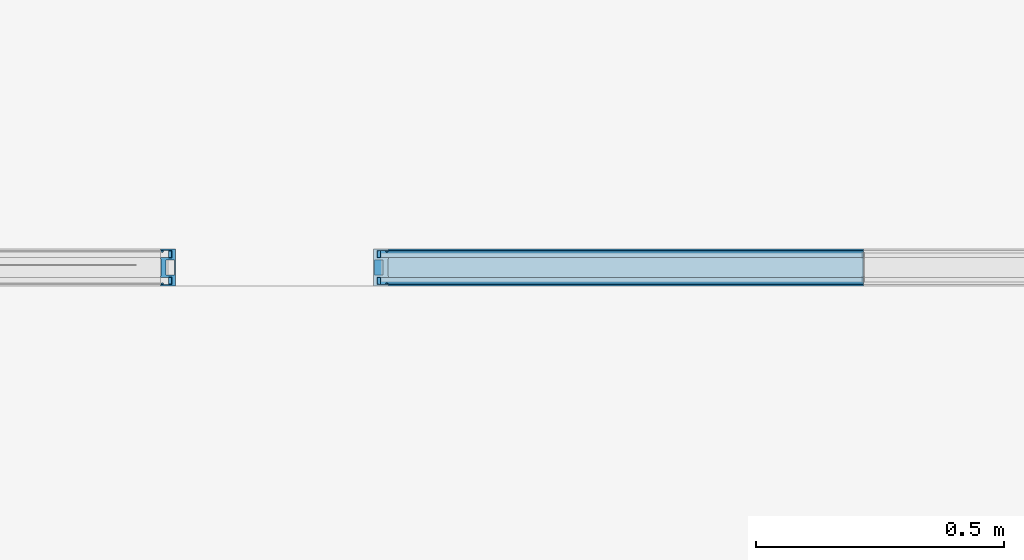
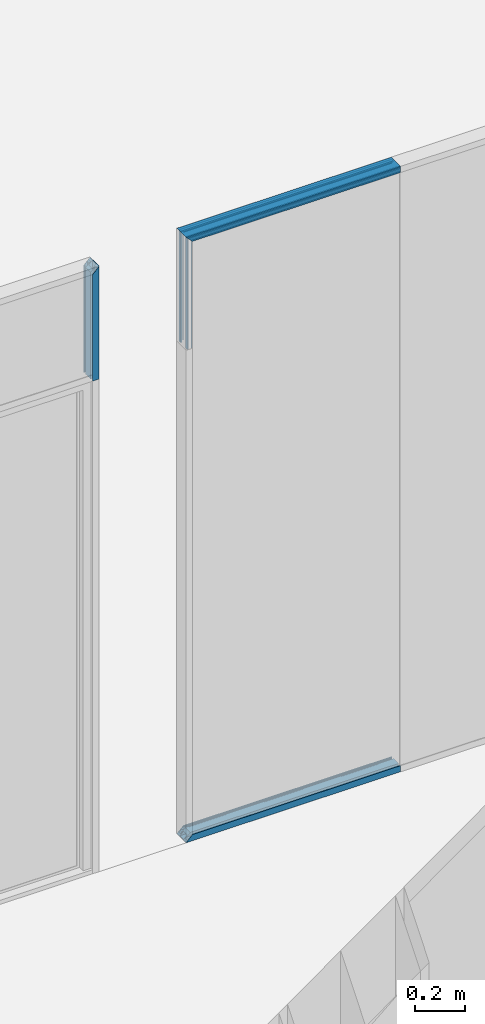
# One storey, part 27 of 62: 7 building element parts, 6 elements without a shape of their own.
"""IFC2X3 building model written with IfcOpenShell, lengths in millimetres."""

from ifc_helpers import new_model, entity, si_unit, converted_unit, derived_unit, money_unit, direction, frame, origin_with_axes, place, context, subcontext, project, spatial, faceted_brep, source, transform, mapped, material, type_object, element, aggregate, save


model = new_model("IFC2X3")

# Units and contexts
model_context = context("Model", 3, precision=0.01, world=origin_with_axes(), true_north=direction((0.0, 1.0)))
body_context = subcontext(model_context, "Body", "Model", "MODEL_VIEW")
ifc_project = project(units=[si_unit("LENGTHUNIT", "METRE", prefix="MILLI"), si_unit("AREAUNIT", "SQUARE_METRE"), si_unit("VOLUMEUNIT", "CUBIC_METRE"), converted_unit("PLANEANGLEUNIT", "DEGREE", entity("IfcPlaneAngleMeasure", 0.0174532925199), si_unit("PLANEANGLEUNIT", "RADIAN"), dimensions=[0, 0, 0, 0, 0, 0, 0]), si_unit("SOLIDANGLEUNIT", "STERADIAN"), money_unit("EUR"), converted_unit("TIMEUNIT", "Year", entity("IfcTimeMeasure", 31556926.0), si_unit("TIMEUNIT", "SECOND"), dimensions=[0, 0, 1, 0, 0, 0, 0]), si_unit("MASSUNIT", "GRAM", prefix="KILO"), si_unit("THERMODYNAMICTEMPERATUREUNIT", "DEGREE_CELSIUS"), si_unit("LUMINOUSINTENSITYUNIT", "LUMEN"), si_unit("ENERGYUNIT", "JOULE", prefix="MEGA"), derived_unit("THERMALCONDUCTANCEUNIT", [(si_unit("POWERUNIT", "WATT"), 1), (si_unit("LENGTHUNIT", "METRE"), -1), (si_unit("THERMODYNAMICTEMPERATUREUNIT", "KELVIN"), -1)]), derived_unit("SPECIFICHEATCAPACITYUNIT", [(si_unit("ENERGYUNIT", "JOULE"), 1), (si_unit("MASSUNIT", "GRAM", prefix="KILO"), -1), (si_unit("THERMODYNAMICTEMPERATUREUNIT", "KELVIN"), -1)]), derived_unit("MASSDENSITYUNIT", [(si_unit("MASSUNIT", "GRAM", prefix="KILO"), 1), (si_unit("VOLUMEUNIT", "CUBIC_METRE"), -1)])], contexts=[model_context])

# Site, building, storey
site_placement = place(None, origin_with_axes())
site = spatial("IfcSite", under=ifc_project, at=site_placement, Name="Puškini 31, Narva", CompositionType="ELEMENT")
building_placement = place(site_placement, origin_with_axes())
building = spatial("IfcBuilding", under=site, at=building_placement, Name="Narva Riigigümnaasium", CompositionType="ELEMENT")
storey_placement = place(building_placement, frame((0.0, 0.0, 660.0), z_axis=(0.0, 0.0, 1.0), x_axis=(1.0, 0.0, 0.0)))
storey = spatial("IfcBuildingStorey", under=building, at=storey_placement, Name="2.korrus +0.66", CompositionType="ELEMENT", Elevation=660.0)

# Curtain wall, member, building element parts
curtain_wall_type = type_object("IfcCurtainWallType", Name="Curtain Wall Type", PredefinedType="NOTDEFINED")
curtain_wall_1_placement = place(storey_placement, frame((41241.6, 223837.000007, -1.99739158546e-06), z_axis=(0.0, 0.0, 1.0), x_axis=(1.0, 0.0, 0.0)))
curtain_wall_1 = element("IfcCurtainWall", 1, at=curtain_wall_1_placement, inside=storey, type_object=curtain_wall_type, Name="G-SKLF-53")
member_type_1 = type_object("IfcMemberType", Name="Boundary Frame 30 x 37", PredefinedType="MULLION")
member_1_placement = place(curtain_wall_1_placement, frame((910.4, 0.0, 2400.0), z_axis=(0.0, 0.0, 1.0), x_axis=(-1.0, 0.0, 0.0)))
member_1 = element("IfcMember", 2, at=member_1_placement, type_object=member_type_1, Name="G-SKLF-87-raam", ObjectType="MULLION")
aggregate(curtain_wall_1, [member_1])
ifc_material_1 = material(Name="Klaasvill")
shared_shape_1 = source(origin_with_axes(), body_context, "Body", "Brep", [
    faceted_brep([(-7.49999990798, 20.000000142, 0.0), (-7.49999990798, 20.000000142, 542.499955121), (-13.8499999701, 20.000000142, 536.149955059), (-13.8499999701, 20.000000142, 0.0), (-7.49999990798, 34.0161444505, 0.0), (-7.49999990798, 34.0161444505, 542.499955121), (-13.8499999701, 34.0161444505, 536.149955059), (-13.8499999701, 34.0161444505, 0.0)], [[[0, 1, 2, 3]], [[4, 5, 1, 0]], [[1, 5, 6, 2]], [[3, 2, 6, 7]], [[0, 3, 7, 4]], [[7, 6, 5, 4]]]),
    faceted_brep([(-24.987414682, 34.0161444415, 0.0), (-24.987414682, 34.0161444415, 525.012540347), (-25.004489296, 32.0307503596, 524.995465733), (-25.004489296, 32.0307503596, 0.0), (-28.5126239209, 34.0161444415, 0.0), (-28.5126239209, 34.0161444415, 521.487331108), (-28.7655837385, 33.0385325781, 521.234371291), (-28.4955493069, 32.0307503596, 521.504405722), (-27.75780152, 31.2930025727, 522.242153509), (-26.7500193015, 31.0229681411, 523.249935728), (-25.742237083, 31.2930025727, 524.257717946), (-25.742237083, 31.2930025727, 0.0), (-26.7500193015, 31.0229681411, 0.0), (-27.75780152, 31.2930025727, 0.0), (-28.4955493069, 32.0307503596, 0.0), (-28.7655837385, 33.0385325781, 0.0)], [[[0, 1, 2, 3]], [[4, 5, 1, 0]], [[1, 5, 6, 7, 8, 9, 10, 2]], [[3, 2, 10, 11]], [[0, 3, 11, 12, 13, 14, 15, 4]], [[15, 6, 5, 4]], [[14, 7, 6, 15]], [[13, 8, 7, 14]], [[12, 9, 8, 13]], [[11, 10, 9, 12]]]),
    faceted_brep([(-7.49999990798, -19.9999997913, 0.0), (-7.49999990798, -19.9999997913, 542.499955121), (-7.49999990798, -34.0161445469, 542.499955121), (-7.49999990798, -34.0161445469, 0.0), (-13.8499999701, -19.9999997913, 0.0), (-13.8499999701, -19.9999997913, 536.149955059), (-13.8499999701, -34.0161445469, 536.149955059), (-13.8499999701, -34.0161445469, 0.0)], [[[0, 1, 2, 3]], [[4, 5, 1, 0]], [[1, 5, 6, 2]], [[3, 2, 6, 7]], [[0, 3, 7, 4]], [[7, 6, 5, 4]]]),
    faceted_brep([(-25.004489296, -32.0307503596, 0.0), (-25.004489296, -32.0307503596, 524.995465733), (-24.987414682, -34.0161444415, 525.012540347), (-24.987414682, -34.0161444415, 0.0), (-25.742237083, -31.2930025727, 0.0), (-25.742237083, -31.2930025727, 524.257717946), (-26.7500193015, -31.0229681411, 523.249935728), (-27.75780152, -31.2930025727, 522.242153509), (-28.4955493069, -32.0307503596, 521.504405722), (-28.7655837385, -33.0385325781, 521.234371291), (-28.5126239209, -34.0161444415, 521.487331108), (-28.5126239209, -34.0161444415, 0.0), (-28.7655837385, -33.0385325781, 0.0), (-28.4955493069, -32.0307503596, 0.0), (-27.75780152, -31.2930025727, 0.0), (-26.7500193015, -31.0229681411, 0.0)], [[[0, 1, 2, 3]], [[4, 5, 1, 0]], [[1, 5, 6, 7, 8, 9, 10, 2]], [[3, 2, 10, 11]], [[0, 3, 11, 12, 13, 14, 15, 4]], [[15, 6, 5, 4]], [[14, 7, 6, 15]], [[13, 8, 7, 14]], [[12, 9, 8, 13]], [[11, 10, 9, 12]]]),
])
building_element_part_1_placement = place(member_1_placement, origin_with_axes())
building_element_part_1 = element("IfcBuildingElementPart", 3, at=building_element_part_1_placement, material=ifc_material_1, Name="Klaasvill", context=body_context, shape_type="MappedRepresentation", body=[
    mapped(shared_shape_1, transform((0.0, 0.0, 0.0), x_axis=(-1.0, 0.0, 0.0), y_axis=(0.0, -1.0, 0.0), z_axis=(0.0, 0.0, 1.0))),
])
ifc_material_2 = material(Name="Teras RAL7012")
shared_shape_2 = source(origin_with_axes(), body_context, "Body", "Brep", [
    faceted_brep([(0.0, -17.0000000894, 0.0), (0.0, -17.0000000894, 549.999955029), (-29.5999996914, -17.0000000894, 520.399955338), (-29.5999996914, -17.0000000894, 0.0), (0.0, 17.0000000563, 0.0), (0.0, 17.0000000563, 549.999955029), (-29.5999996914, 17.0000000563, 520.399955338), (-1.9999999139, 15.0000001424, 547.999955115), (-1.9999999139, -15.0000001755, 547.999955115), (-18.7999996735, -15.0000001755, 531.199955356), (-18.7999996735, 15.0000001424, 531.199955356), (-29.5999996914, 17.0000000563, 0.0), (-1.9999999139, 15.0000001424, 0.0), (-18.7999996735, 15.0000001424, 0.0), (-18.7999996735, -15.0000001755, 0.0), (-1.9999999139, -15.0000001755, 0.0)], [[[0, 1, 2, 3]], [[4, 5, 1, 0]], [[1, 5, 6, 2], [7, 8, 9, 10]], [[3, 2, 6, 11]], [[0, 3, 11, 4], [12, 13, 14, 15]], [[11, 6, 5, 4]], [[15, 8, 7, 12]], [[14, 9, 8, 15]], [[13, 10, 9, 14]], [[12, 7, 10, 13]]]),
    faceted_brep([(0.0, 17.0, 0.0), (0.0, 17.0, 549.999955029), (-29.5999996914, 17.0000000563, 520.399955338), (-29.5999996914, 17.0000000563, 0.0), (0.0, 37.0, 0.0), (0.0, 37.0, 549.999955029), (-30.0000193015, 37.0, 519.999935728), (-30.0000193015, 34.0161444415, 519.999935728), (-28.5126239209, 34.0161444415, 521.487331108), (-24.987414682, 34.0161444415, 525.012540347), (-13.8499999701, 34.0161444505, 536.149955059), (-7.49999999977, 34.0161444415, 542.49995503), (-7.49999999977, 20.0, 542.49995503), (-13.8499999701, 20.000000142, 536.149955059), (-30.0000193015, 20.0, 519.999935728), (-30.0000193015, 17.0, 519.999935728), (-30.0000193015, 17.0, 0.0), (-30.0000193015, 20.0, 0.0), (-13.8499999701, 20.000000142, 0.0), (-7.49999999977, 20.0, 0.0), (-7.49999999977, 34.0161444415, 0.0), (-13.8499999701, 34.0161444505, 0.0), (-24.987414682, 34.0161444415, 0.0), (-28.5126239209, 34.0161444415, 0.0), (-30.0000193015, 34.0161444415, 0.0), (-30.0000193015, 37.0, 0.0)], [[[0, 1, 2, 3]], [[4, 5, 1, 0]], [[1, 5, 6, 7, 8, 9, 10, 11, 12, 13, 14, 15, 2]], [[3, 2, 15, 16]], [[0, 3, 16, 17, 18, 19, 20, 21, 22, 23, 24, 25, 4]], [[25, 6, 5, 4]], [[24, 7, 6, 25]], [[23, 8, 7, 24]], [[22, 9, 8, 23]], [[21, 10, 9, 22]], [[20, 11, 10, 21]], [[19, 12, 11, 20]], [[18, 13, 12, 19]], [[17, 14, 13, 18]], [[16, 15, 14, 17]]]),
    faceted_brep([(0.0, -17.0, 0.0), (0.0, -17.0, 549.999955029), (0.0, -37.0, 549.999955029), (0.0, -37.0, 0.0), (-29.5999996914, -17.0000000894, 0.0), (-29.5999996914, -17.0000000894, 520.399955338), (-30.0000193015, -17.0, 519.999935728), (-30.0000193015, -20.0, 519.999935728), (-13.8499999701, -19.9999997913, 536.149955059), (-7.49999999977, -20.0, 542.49995503), (-7.49999999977, -34.0161444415, 542.49995503), (-13.8499999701, -34.0161445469, 536.149955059), (-24.987414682, -34.0161444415, 525.012540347), (-28.5126239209, -34.0161444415, 521.487331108), (-30.0000193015, -34.0161444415, 519.999935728), (-30.0000193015, -37.0, 519.999935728), (-30.0000193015, -37.0, 0.0), (-30.0000193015, -34.0161444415, 0.0), (-28.5126239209, -34.0161444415, 0.0), (-24.987414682, -34.0161444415, 0.0), (-13.8499999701, -34.0161445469, 0.0), (-7.49999999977, -34.0161444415, 0.0), (-7.49999999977, -20.0, 0.0), (-13.8499999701, -19.9999997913, 0.0), (-30.0000193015, -20.0, 0.0), (-30.0000193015, -17.0, 0.0)], [[[0, 1, 2, 3]], [[4, 5, 1, 0]], [[1, 5, 6, 7, 8, 9, 10, 11, 12, 13, 14, 15, 2]], [[3, 2, 15, 16]], [[0, 3, 16, 17, 18, 19, 20, 21, 22, 23, 24, 25, 4]], [[25, 6, 5, 4]], [[24, 7, 6, 25]], [[23, 8, 7, 24]], [[22, 9, 8, 23]], [[21, 10, 9, 22]], [[20, 11, 10, 21]], [[19, 12, 11, 20]], [[18, 13, 12, 19]], [[17, 14, 13, 18]], [[16, 15, 14, 17]]]),
])
building_element_part_2_placement = place(member_1_placement, origin_with_axes())
building_element_part_2 = element("IfcBuildingElementPart", 4, at=building_element_part_2_placement, material=ifc_material_2, Name="Teras RAL7012", context=body_context, shape_type="MappedRepresentation", body=[
    mapped(shared_shape_2, transform((0.0, 0.0, 0.0), x_axis=(-1.0, 0.0, 0.0), y_axis=(0.0, -1.0, 0.0), z_axis=(0.0, 0.0, 1.0))),
])
aggregate(member_1, [building_element_part_1, building_element_part_2])

# Curtain wall, members, building element parts
curtain_wall_2_placement = place(storey_placement, frame((45089.2571373, 223837.000216, -1.99739158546e-06), z_axis=(0.0, 0.0, 1.0), x_axis=(1.0, 0.0, 0.0)))
curtain_wall_2 = element("IfcCurtainWall", 5, at=curtain_wall_2_placement, inside=storey, type_object=curtain_wall_type, Name="G-SKLF-52")
member_type_2 = type_object("IfcMemberType", Name="30 x 37", PredefinedType="MULLION")
member_2_placement = place(curtain_wall_2_placement, frame((-2537.25717987, 0.0, 2400.0), z_axis=(0.0, 0.0, 1.0), x_axis=(1.0, 0.0, 0.0)))
member_2 = element("IfcMember", 6, at=member_2_placement, type_object=member_type_2, Name="G-SKLF-57-raam", ObjectType="MULLION")
shared_shape_3 = source(origin_with_axes(), body_context, "Body", "Brep", [
    faceted_brep([(7.49999990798, 20.000000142, 0.0), (13.8499999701, 20.000000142, 0.0), (13.8499999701, 20.000000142, 536.15000003), (7.49999990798, 20.000000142, 542.500000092), (7.49999990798, 34.0161444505, 0.0), (13.8499999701, 34.0161444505, 0.0), (13.8499999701, 34.0161444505, 536.15000003), (7.49999990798, 34.0161444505, 542.500000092)], [[[0, 1, 2, 3]], [[0, 4, 5, 1]], [[1, 5, 6, 2]], [[3, 2, 6, 7]], [[4, 0, 3, 7]], [[5, 4, 7, 6]]]),
    faceted_brep([(24.987414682, 34.0161444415, 0.0), (25.004489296, 32.0307503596, 0.0), (25.004489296, 32.0307503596, 524.995510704), (24.987414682, 34.0161444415, 525.012585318), (28.5126239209, 34.0161444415, 0.0), (28.7655837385, 33.0385325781, 0.0), (28.4955493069, 32.0307503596, 0.0), (27.75780152, 31.2930025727, 0.0), (26.7500193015, 31.0229681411, 0.0), (25.742237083, 31.2930025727, 0.0), (25.742237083, 31.2930025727, 524.257762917), (26.7500193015, 31.0229681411, 523.249980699), (27.75780152, 31.2930025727, 522.24219848), (28.4955493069, 32.0307503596, 521.504450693), (28.7655837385, 33.0385325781, 521.234416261), (28.5126239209, 34.0161444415, 521.487376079)], [[[0, 1, 2, 3]], [[0, 4, 5, 6, 7, 8, 9, 1]], [[1, 9, 10, 2]], [[3, 2, 10, 11, 12, 13, 14, 15]], [[4, 0, 3, 15]], [[5, 4, 15, 14]], [[6, 5, 14, 13]], [[7, 6, 13, 12]], [[8, 7, 12, 11]], [[9, 8, 11, 10]]]),
    faceted_brep([(7.49999990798, -19.9999997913, 0.0), (7.49999990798, -34.0161445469, 0.0), (7.49999990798, -34.0161445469, 542.500000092), (7.49999990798, -19.9999997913, 542.500000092), (13.8499999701, -19.9999997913, 0.0), (13.8499999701, -34.0161445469, 0.0), (13.8499999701, -34.0161445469, 536.15000003), (13.8499999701, -19.9999997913, 536.15000003)], [[[0, 1, 2, 3]], [[0, 4, 5, 1]], [[1, 5, 6, 2]], [[3, 2, 6, 7]], [[4, 0, 3, 7]], [[5, 4, 7, 6]]]),
    faceted_brep([(25.004489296, -32.0307503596, 0.0), (24.987414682, -34.0161444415, 0.0), (24.987414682, -34.0161444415, 525.012585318), (25.004489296, -32.0307503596, 524.995510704), (25.742237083, -31.2930025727, 0.0), (26.7500193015, -31.0229681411, 0.0), (27.75780152, -31.2930025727, 0.0), (28.4955493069, -32.0307503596, 0.0), (28.7655837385, -33.0385325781, 0.0), (28.5126239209, -34.0161444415, 0.0), (28.5126239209, -34.0161444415, 521.487376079), (28.7655837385, -33.0385325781, 521.234416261), (28.4955493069, -32.0307503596, 521.504450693), (27.75780152, -31.2930025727, 522.24219848), (26.7500193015, -31.0229681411, 523.249980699), (25.742237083, -31.2930025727, 524.257762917)], [[[0, 1, 2, 3]], [[0, 4, 5, 6, 7, 8, 9, 1]], [[1, 9, 10, 2]], [[3, 2, 10, 11, 12, 13, 14, 15]], [[4, 0, 3, 15]], [[5, 4, 15, 14]], [[6, 5, 14, 13]], [[7, 6, 13, 12]], [[8, 7, 12, 11]], [[9, 8, 11, 10]]]),
])
building_element_part_3_placement = place(member_2_placement, origin_with_axes())
building_element_part_3 = element("IfcBuildingElementPart", 7, at=building_element_part_3_placement, material=ifc_material_1, Name="Klaasvill", context=body_context, shape_type="MappedRepresentation", body=[
    mapped(shared_shape_3, transform((0.0, 0.0, 0.0))),
])
aggregate(member_2, [building_element_part_3])
member_3_placement = place(curtain_wall_2_placement, frame((-1547.65714373, 0.0, 0.0), z_axis=(-1.0, 0.0, 0.0), x_axis=(0.0, 0.0, 1.0)))
member_3 = element("IfcMember", 8, at=member_3_placement, type_object=member_type_2, Name="G-SKLF-55-raam", ObjectType="MULLION")
shared_shape_4 = source(origin_with_axes(), body_context, "Body", "Brep", [
    faceted_brep([(7.49999990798, 20.000000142, 0.0), (13.8499999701, 20.000000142, 0.0), (13.8499999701, 20.000000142, 975.750036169), (7.49999990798, 20.000000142, 982.100036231), (7.49999990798, 34.0161444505, 0.0), (13.8499999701, 34.0161444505, 0.0), (13.8499999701, 34.0161444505, 975.750036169), (7.49999990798, 34.0161444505, 982.100036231)], [[[0, 1, 2, 3]], [[0, 4, 5, 1]], [[1, 5, 6, 2]], [[3, 2, 6, 7]], [[4, 0, 3, 7]], [[5, 4, 7, 6]]]),
    faceted_brep([(24.987414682, 34.0161444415, 0.0), (25.004489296, 32.0307503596, 0.0), (25.004489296, 32.0307503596, 964.595546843), (24.987414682, 34.0161444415, 964.612621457), (28.5126239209, 34.0161444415, 0.0), (28.7655837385, 33.0385325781, 0.0), (28.4955493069, 32.0307503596, 0.0), (27.75780152, 31.2930025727, 0.0), (26.7500193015, 31.0229681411, 0.0), (25.742237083, 31.2930025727, 0.0), (25.742237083, 31.2930025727, 963.857799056), (26.7500193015, 31.0229681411, 962.850016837), (27.75780152, 31.2930025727, 961.842234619), (28.4955493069, 32.0307503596, 961.104486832), (28.7655837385, 33.0385325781, 960.8344524), (28.5126239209, 34.0161444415, 961.087412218)], [[[0, 1, 2, 3]], [[0, 4, 5, 6, 7, 8, 9, 1]], [[1, 9, 10, 2]], [[3, 2, 10, 11, 12, 13, 14, 15]], [[4, 0, 3, 15]], [[5, 4, 15, 14]], [[6, 5, 14, 13]], [[7, 6, 13, 12]], [[8, 7, 12, 11]], [[9, 8, 11, 10]]]),
    faceted_brep([(7.49999990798, -19.9999997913, 0.0), (7.49999990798, -34.0161445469, 0.0), (7.49999990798, -34.0161445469, 982.100036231), (7.49999990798, -19.9999997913, 982.100036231), (13.8499999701, -19.9999997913, 0.0), (13.8499999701, -34.0161445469, 0.0), (13.8499999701, -34.0161445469, 975.750036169), (13.8499999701, -19.9999997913, 975.750036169)], [[[0, 1, 2, 3]], [[0, 4, 5, 1]], [[1, 5, 6, 2]], [[3, 2, 6, 7]], [[4, 0, 3, 7]], [[5, 4, 7, 6]]]),
    faceted_brep([(25.004489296, -32.0307503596, 0.0), (24.987414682, -34.0161444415, 0.0), (24.987414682, -34.0161444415, 964.612621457), (25.004489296, -32.0307503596, 964.595546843), (25.742237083, -31.2930025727, 0.0), (26.7500193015, -31.0229681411, 0.0), (27.75780152, -31.2930025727, 0.0), (28.4955493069, -32.0307503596, 0.0), (28.7655837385, -33.0385325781, 0.0), (28.5126239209, -34.0161444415, 0.0), (28.5126239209, -34.0161444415, 961.087412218), (28.7655837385, -33.0385325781, 960.8344524), (28.4955493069, -32.0307503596, 961.104486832), (27.75780152, -31.2930025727, 961.842234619), (26.7500193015, -31.0229681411, 962.850016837), (25.742237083, -31.2930025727, 963.857799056)], [[[0, 1, 2, 3]], [[0, 4, 5, 6, 7, 8, 9, 1]], [[1, 9, 10, 2]], [[3, 2, 10, 11, 12, 13, 14, 15]], [[4, 0, 3, 15]], [[5, 4, 15, 14]], [[6, 5, 14, 13]], [[7, 6, 13, 12]], [[8, 7, 12, 11]], [[9, 8, 11, 10]]]),
])
building_element_part_4_placement = place(member_3_placement, origin_with_axes())
building_element_part_4 = element("IfcBuildingElementPart", 9, at=building_element_part_4_placement, material=ifc_material_1, Name="Klaasvill", context=body_context, shape_type="MappedRepresentation", body=[
    mapped(shared_shape_4, transform((0.0, 0.0, 0.0))),
])
shared_shape_5 = source(origin_with_axes(), body_context, "Body", "Brep", [
    faceted_brep([(0.0, -17.0000000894, 0.0), (29.5999996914, -17.0000000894, 0.0), (29.5999996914, -17.0000000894, 960.000036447), (0.0, -17.0000000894, 989.600036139), (0.0, 17.0000000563, 0.0), (29.5999996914, 17.0000000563, 0.0), (1.9999999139, 15.0000001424, 0.0), (1.9999999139, -15.0000001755, 0.0), (18.7999996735, -15.0000001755, 0.0), (18.7999996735, 15.0000001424, 0.0), (29.5999996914, 17.0000000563, 960.000036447), (0.0, 17.0000000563, 989.600036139), (1.9999999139, 15.0000001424, 987.600036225), (18.7999996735, 15.0000001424, 970.800036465), (18.7999996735, -15.0000001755, 970.800036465), (1.9999999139, -15.0000001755, 987.600036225)], [[[0, 1, 2, 3]], [[0, 4, 5, 1], [6, 7, 8, 9]], [[1, 5, 10, 2]], [[3, 2, 10, 11], [12, 13, 14, 15]], [[4, 0, 3, 11]], [[5, 4, 11, 10]], [[7, 6, 12, 15]], [[8, 7, 15, 14]], [[9, 8, 14, 13]], [[6, 9, 13, 12]]]),
    faceted_brep([(0.0, 17.0, 0.0), (29.5999996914, 17.0000000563, 0.0), (29.5999996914, 17.0000000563, 960.000036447), (0.0, 17.0, 989.600036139), (0.0, 37.0, 0.0), (30.0000193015, 37.0, 0.0), (30.0000193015, 34.0161444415, 0.0), (28.5126239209, 34.0161444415, 0.0), (24.987414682, 34.0161444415, 0.0), (13.8499999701, 34.0161444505, 0.0), (7.49999999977, 34.0161444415, 0.0), (7.49999999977, 20.0, 0.0), (13.8499999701, 20.000000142, 0.0), (30.0000193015, 20.0, 0.0), (30.0000193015, 17.0, 0.0), (30.0000193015, 17.0, 959.600016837), (30.0000193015, 20.0, 959.600016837), (13.8499999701, 20.000000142, 975.750036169), (7.49999999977, 20.0, 982.100036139), (7.49999999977, 34.0161444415, 982.100036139), (13.8499999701, 34.0161444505, 975.750036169), (24.987414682, 34.0161444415, 964.612621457), (28.5126239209, 34.0161444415, 961.087412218), (30.0000193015, 34.0161444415, 959.600016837), (30.0000193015, 37.0, 959.600016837), (0.0, 37.0, 989.600036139)], [[[0, 1, 2, 3]], [[0, 4, 5, 6, 7, 8, 9, 10, 11, 12, 13, 14, 1]], [[1, 14, 15, 2]], [[3, 2, 15, 16, 17, 18, 19, 20, 21, 22, 23, 24, 25]], [[4, 0, 3, 25]], [[5, 4, 25, 24]], [[6, 5, 24, 23]], [[7, 6, 23, 22]], [[8, 7, 22, 21]], [[9, 8, 21, 20]], [[10, 9, 20, 19]], [[11, 10, 19, 18]], [[12, 11, 18, 17]], [[13, 12, 17, 16]], [[14, 13, 16, 15]]]),
    faceted_brep([(0.0, -17.0, 0.0), (0.0, -37.0, 0.0), (0.0, -37.0, 989.600036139), (0.0, -17.0, 989.600036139), (29.5999996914, -17.0000000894, 0.0), (30.0000193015, -17.0, 0.0), (30.0000193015, -20.0, 0.0), (13.8499999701, -19.9999997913, 0.0), (7.49999999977, -20.0, 0.0), (7.49999999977, -34.0161444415, 0.0), (13.8499999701, -34.0161445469, 0.0), (24.987414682, -34.0161444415, 0.0), (28.5126239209, -34.0161444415, 0.0), (30.0000193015, -34.0161444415, 0.0), (30.0000193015, -37.0, 0.0), (30.0000193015, -37.0, 959.600016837), (30.0000193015, -34.0161444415, 959.600016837), (28.5126239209, -34.0161444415, 961.087412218), (24.987414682, -34.0161444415, 964.612621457), (13.8499999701, -34.0161445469, 975.750036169), (7.49999999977, -34.0161444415, 982.100036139), (7.49999999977, -20.0, 982.100036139), (13.8499999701, -19.9999997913, 975.750036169), (30.0000193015, -20.0, 959.600016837), (30.0000193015, -17.0, 959.600016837), (29.5999996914, -17.0000000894, 960.000036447)], [[[0, 1, 2, 3]], [[0, 4, 5, 6, 7, 8, 9, 10, 11, 12, 13, 14, 1]], [[1, 14, 15, 2]], [[3, 2, 15, 16, 17, 18, 19, 20, 21, 22, 23, 24, 25]], [[4, 0, 3, 25]], [[5, 4, 25, 24]], [[6, 5, 24, 23]], [[7, 6, 23, 22]], [[8, 7, 22, 21]], [[9, 8, 21, 20]], [[10, 9, 20, 19]], [[11, 10, 19, 18]], [[12, 11, 18, 17]], [[13, 12, 17, 16]], [[14, 13, 16, 15]]]),
])
building_element_part_5_placement = place(member_3_placement, origin_with_axes())
building_element_part_5 = element("IfcBuildingElementPart", 10, at=building_element_part_5_placement, material=ifc_material_2, Name="Teras RAL7012", context=body_context, shape_type="MappedRepresentation", body=[
    mapped(shared_shape_5, transform((0.0, 0.0, 0.0))),
])
aggregate(member_3, [building_element_part_4, building_element_part_5])
member_4_placement = place(curtain_wall_2_placement, frame((-2537.25717987, 0.0, 2949.99991831), z_axis=(1.0, 0.0, 2.49891152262e-08), x_axis=(2.49891152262e-08, 0.0, -1.0)))
member_4 = element("IfcMember", 11, at=member_4_placement, type_object=member_type_2, Name="G-SKLF-58-raam", ObjectType="MULLION")
aggregate(curtain_wall_2, [member_3, member_4, member_2])
shared_shape_6 = source(origin_with_axes(), body_context, "Body", "Brep", [
    faceted_brep([(13.8499999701, 20.000000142, 13.849999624), (13.8499999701, 20.000000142, 989.600036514), (7.49999990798, 20.000000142, 989.600036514), (7.49999990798, 20.000000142, 7.49999972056), (13.8499999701, 34.0161444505, 13.849999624), (13.8499999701, 34.0161444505, 989.600036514), (7.49999990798, 34.0161444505, 989.600036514), (7.49999990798, 34.0161444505, 7.49999972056)], [[[0, 1, 2, 3]], [[4, 5, 1, 0]], [[2, 1, 5, 6]], [[3, 2, 6, 7]], [[3, 7, 4, 0]], [[7, 6, 5, 4]]]),
    faceted_brep([(25.004489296, 32.0307503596, 25.0044886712), (25.004489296, 32.0307503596, 989.600036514), (24.987414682, 34.0161444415, 989.600036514), (24.987414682, 34.0161444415, 24.9874140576), (25.742237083, 31.2930025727, 25.7422364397), (25.742237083, 31.2930025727, 989.600036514), (26.7500193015, 31.0229681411, 989.600036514), (27.75780152, 31.2930025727, 989.600036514), (28.4955493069, 32.0307503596, 989.600036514), (28.7655837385, 33.0385325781, 989.600036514), (28.5126239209, 34.0161444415, 989.600036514), (28.5126239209, 34.0161444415, 28.5126232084), (28.7655837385, 33.0385325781, 28.7655830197), (28.4955493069, 32.0307503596, 28.4955485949), (27.75780152, 31.2930025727, 27.7578008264), (26.7500193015, 31.0229681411, 26.750018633)], [[[0, 1, 2, 3]], [[4, 5, 1, 0]], [[2, 1, 5, 6, 7, 8, 9, 10]], [[3, 2, 10, 11]], [[3, 11, 12, 13, 14, 15, 4, 0]], [[15, 6, 5, 4]], [[14, 7, 6, 15]], [[13, 8, 7, 14]], [[12, 9, 8, 13]], [[11, 10, 9, 12]]]),
    faceted_brep([(7.49999990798, -34.0161445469, 7.49999972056), (7.49999990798, -34.0161445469, 989.600036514), (7.49999990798, -19.9999997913, 989.600036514), (7.49999990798, -19.9999997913, 7.49999972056), (13.8499999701, -34.0161445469, 13.849999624), (13.8499999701, -34.0161445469, 989.600036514), (13.8499999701, -19.9999997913, 989.600036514), (13.8499999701, -19.9999997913, 13.849999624)], [[[0, 1, 2, 3]], [[4, 5, 1, 0]], [[2, 1, 5, 6]], [[3, 2, 6, 7]], [[3, 7, 4, 0]], [[7, 6, 5, 4]]]),
    faceted_brep([(24.987414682, -34.0161444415, 24.9874140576), (24.987414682, -34.0161444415, 989.600036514), (25.004489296, -32.0307503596, 989.600036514), (25.004489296, -32.0307503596, 25.0044886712), (28.5126239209, -34.0161444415, 28.5126232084), (28.5126239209, -34.0161444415, 989.600036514), (28.7655837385, -33.0385325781, 989.600036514), (28.4955493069, -32.0307503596, 989.600036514), (27.75780152, -31.2930025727, 989.600036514), (26.7500193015, -31.0229681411, 989.600036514), (25.742237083, -31.2930025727, 989.600036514), (25.742237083, -31.2930025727, 25.7422364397), (26.7500193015, -31.0229681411, 26.750018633), (27.75780152, -31.2930025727, 27.7578008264), (28.4955493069, -32.0307503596, 28.4955485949), (28.7655837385, -33.0385325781, 28.7655830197)], [[[0, 1, 2, 3]], [[4, 5, 1, 0]], [[2, 1, 5, 6, 7, 8, 9, 10]], [[3, 2, 10, 11]], [[3, 11, 12, 13, 14, 15, 4, 0]], [[15, 6, 5, 4]], [[14, 7, 6, 15]], [[13, 8, 7, 14]], [[12, 9, 8, 13]], [[11, 10, 9, 12]]]),
])
building_element_part_6_placement = place(member_4_placement, origin_with_axes())
building_element_part_6 = element("IfcBuildingElementPart", 12, at=building_element_part_6_placement, material=ifc_material_1, Name="Klaasvill", context=body_context, shape_type="MappedRepresentation", body=[
    mapped(shared_shape_6, transform((0.0, 0.0, 0.0))),
])
shared_shape_7 = source(origin_with_axes(), body_context, "Body", "Brep", [
    faceted_brep([(29.5999996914, -17.0000000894, 29.5999989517), (29.5999996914, -17.0000000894, 989.600036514), (0.0, -17.0000000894, 989.600036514), (0.0, -17.0000000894, 0.0), (29.5999996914, 17.0000000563, 29.5999989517), (29.5999996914, 17.0000000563, 989.600036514), (0.0, 17.0000000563, 989.600036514), (1.9999999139, 15.0000001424, 989.600036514), (18.7999996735, 15.0000001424, 989.600036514), (18.7999996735, -15.0000001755, 989.600036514), (1.9999999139, -15.0000001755, 989.600036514), (0.0, 17.0000000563, 0.0), (1.9999999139, 15.0000001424, 1.99999986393), (1.9999999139, -15.0000001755, 1.99999986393), (18.7999996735, -15.0000001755, 18.7999992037), (18.7999996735, 15.0000001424, 18.7999992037)], [[[0, 1, 2, 3]], [[4, 5, 1, 0]], [[2, 1, 5, 6], [7, 8, 9, 10]], [[3, 2, 6, 11]], [[3, 11, 4, 0], [12, 13, 14, 15]], [[11, 6, 5, 4]], [[15, 8, 7, 12]], [[14, 9, 8, 15]], [[13, 10, 9, 14]], [[12, 7, 10, 13]]]),
    faceted_brep([(29.5999996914, 17.0000000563, 29.5999989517), (29.5999996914, 17.0000000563, 989.600036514), (0.0, 17.0, 989.600036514), (0.0, 17.0, 0.0), (30.0000193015, 17.0, 30.0000185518), (30.0000193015, 17.0, 989.600036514), (30.0000193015, 20.0, 989.600036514), (13.8499999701, 20.000000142, 989.600036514), (7.49999999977, 20.0, 989.600036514), (7.49999999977, 34.0161444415, 989.600036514), (13.8499999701, 34.0161444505, 989.600036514), (24.987414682, 34.0161444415, 989.600036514), (28.5126239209, 34.0161444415, 989.600036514), (30.0000193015, 34.0161444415, 989.600036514), (30.0000193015, 37.0, 989.600036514), (0.0, 37.0, 989.600036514), (0.0, 37.0, 0.0), (30.0000193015, 37.0, 30.0000185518), (30.0000193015, 34.0161444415, 30.0000185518), (28.5126239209, 34.0161444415, 28.5126232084), (24.987414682, 34.0161444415, 24.9874140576), (13.8499999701, 34.0161444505, 13.849999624), (7.49999999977, 34.0161444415, 7.49999981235), (7.49999999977, 20.0, 7.49999981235), (13.8499999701, 20.000000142, 13.849999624), (30.0000193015, 20.0, 30.0000185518)], [[[0, 1, 2, 3]], [[4, 5, 1, 0]], [[2, 1, 5, 6, 7, 8, 9, 10, 11, 12, 13, 14, 15]], [[3, 2, 15, 16]], [[3, 16, 17, 18, 19, 20, 21, 22, 23, 24, 25, 4, 0]], [[25, 6, 5, 4]], [[24, 7, 6, 25]], [[23, 8, 7, 24]], [[22, 9, 8, 23]], [[21, 10, 9, 22]], [[20, 11, 10, 21]], [[19, 12, 11, 20]], [[18, 13, 12, 19]], [[17, 14, 13, 18]], [[16, 15, 14, 17]]]),
    faceted_brep([(0.0, -37.0, 0.0), (0.0, -37.0, 989.600036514), (0.0, -17.0, 989.600036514), (0.0, -17.0, 0.0), (30.0000193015, -37.0, 30.0000185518), (30.0000193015, -37.0, 989.600036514), (30.0000193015, -34.0161444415, 989.600036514), (28.5126239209, -34.0161444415, 989.600036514), (24.987414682, -34.0161444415, 989.600036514), (13.8499999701, -34.0161445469, 989.600036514), (7.49999999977, -34.0161444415, 989.600036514), (7.49999999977, -20.0, 989.600036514), (13.8499999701, -19.9999997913, 989.600036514), (30.0000193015, -20.0, 989.600036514), (30.0000193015, -17.0, 989.600036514), (29.5999996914, -17.0000000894, 989.600036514), (29.5999996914, -17.0000000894, 29.5999989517), (30.0000193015, -17.0, 30.0000185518), (30.0000193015, -20.0, 30.0000185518), (13.8499999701, -19.9999997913, 13.849999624), (7.49999999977, -20.0, 7.49999981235), (7.49999999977, -34.0161444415, 7.49999981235), (13.8499999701, -34.0161445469, 13.849999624), (24.987414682, -34.0161444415, 24.9874140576), (28.5126239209, -34.0161444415, 28.5126232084), (30.0000193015, -34.0161444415, 30.0000185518)], [[[0, 1, 2, 3]], [[4, 5, 1, 0]], [[2, 1, 5, 6, 7, 8, 9, 10, 11, 12, 13, 14, 15]], [[3, 2, 15, 16]], [[3, 16, 17, 18, 19, 20, 21, 22, 23, 24, 25, 4, 0]], [[25, 6, 5, 4]], [[24, 7, 6, 25]], [[23, 8, 7, 24]], [[22, 9, 8, 23]], [[21, 10, 9, 22]], [[20, 11, 10, 21]], [[19, 12, 11, 20]], [[18, 13, 12, 19]], [[17, 14, 13, 18]], [[16, 15, 14, 17]]]),
])
building_element_part_7_placement = place(member_4_placement, origin_with_axes())
building_element_part_7 = element("IfcBuildingElementPart", 13, at=building_element_part_7_placement, material=ifc_material_2, Name="Teras RAL7012", context=body_context, shape_type="MappedRepresentation", body=[
    mapped(shared_shape_7, transform((0.0, 0.0, 0.0))),
])
aggregate(member_4, [building_element_part_6, building_element_part_7])

save(model, "model.ifc")
